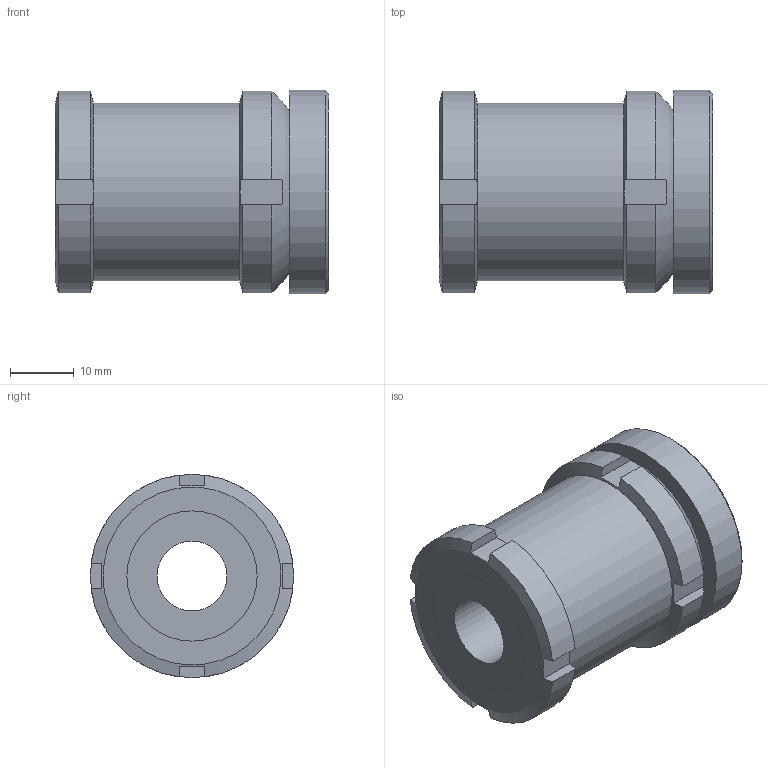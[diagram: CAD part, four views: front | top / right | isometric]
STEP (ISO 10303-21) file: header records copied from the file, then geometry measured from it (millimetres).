
FILE_DESCRIPTION( ( 'STEP AP203' ), '1' );
FILE_NAME( 'C:/Temp/Ganter_Step_05_03_2020/data/3_2/gn350_2/gn_350_2_ni/Stainless Steel-Levelling set GN 350.2-32-11-43-NI (0-0).stp', '2020-03-13T05:28:07', ( 'License CC BY-ND 4.0' ), ( 'CADENAS' ), ' ', 'PARTsolutions', ' ' );
FILE_SCHEMA( ( 'CONFIG_CONTROL_DESIGN' ) );
Length unit declared in the file: millimetre
Products named in the file (4): Stainless Steel-Levelling set GN 350.2-32-11-43-NI (0-0); _Levelling set GN 350.2-32-11-43-ST-G; _Levelling set GN 350.2-32-11-43-ST-K; _Levelling set GN 350.2-32-11-43-ST-P(0)
Assembly tree (3 placements, depth 2):
  Stainless Steel-Levelling set GN 350.2-32-11-43-NI (0-0)
    _Levelling set GN 350.2-32-11-43-ST-G
    _Levelling set GN 350.2-32-11-43-ST-K
    _Levelling set GN 350.2-32-11-43-ST-P(0)
Bounding box: 43 x 32 x 32 mm (x, y, z)
Volume: 24902.2 mm3; surface area: 13151.3 mm2
Topology: 3 solids, 3 shells, 61 faces, 147 edges, 98 vertices
Faces by surface type: plane 36, cylinder 19, cone 4, sphere 2
Full cylindrical faces by diameter (mm): 11 x1, 15 x1, 16.473 x1, 17.5 x1, 18.917 x1, 20 x2, 20.5 x2, 28 x1, 32 x1
Entity records: 1905 total; most frequent: CARTESIAN_POINT 459, DIRECTION 272, ORIENTED_EDGE 246, EDGE_CURVE 123, AXIS2_PLACEMENT_3D 120, VERTEX_POINT 91, EDGE_LOOP 90, FACE_OUTER_BOUND 74
